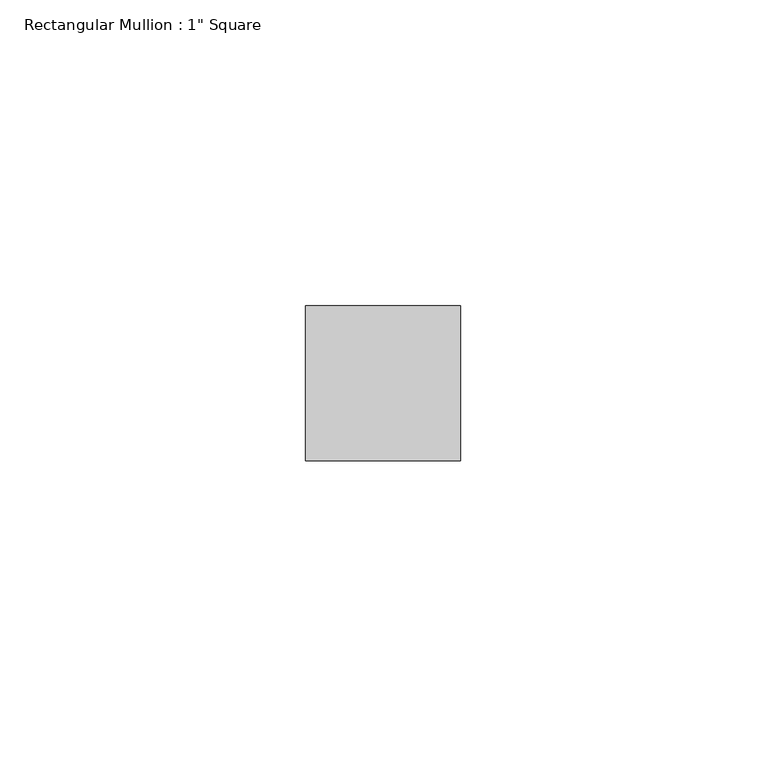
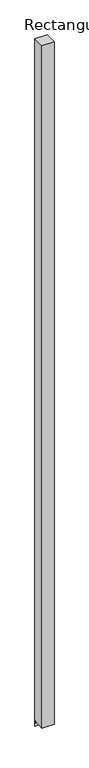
"""IFC4 building model written with IfcOpenShell, lengths in millimetres: member geometry."""

from ifc_helpers import new_model, si_unit, frame, origin, place, context, project, spatial, polyline, outline, extrude, source, transform, mapped, element, save


def member_f831c101(model_context):
    return source(origin(), model_context, "Body", "SweptSolid", [
        extrude(outline(polyline([(-12.7, 0.0), (12.7, 0.0), (12.7, -1523.203125), (11.0128906, -1509.8121094), (-12.7, -1512.7996528), (-12.7, 0.0)])), frame((-25.4, 0.0, 0.0), z_axis=(1.0, 0.0, 0.0), x_axis=(0.0, 1.0, 0.0)), (0.0, 0.0, 1.0), 25.4),
    ])


if __name__ == "__main__":
    model = new_model("IFC4")
    model_context = context("Model", 3, world=origin())
    ifc_project = project(units=[si_unit("LENGTHUNIT", "METRE", prefix="MILLI")], contexts=[model_context])
    site = spatial("IfcSite", under=ifc_project)
    building = spatial("IfcBuilding", under=site)
    placement = place(None, origin())
    member_shape = member_f831c101(model_context)
    element("IfcMember", 1, ObjectType="Rectangular Mullion : 1\" Square", at=placement, inside=building, context=model_context, shape_type="MappedRepresentation", body=[
        mapped(member_shape, transform((0.0, 0.0, 0.0), x_axis=(1.0, 0.0, 0.0), y_axis=(0.0, 1.0, 0.0), z_axis=(0.0, 0.0, 1.0))),
    ])
    save(model, "model.ifc")
